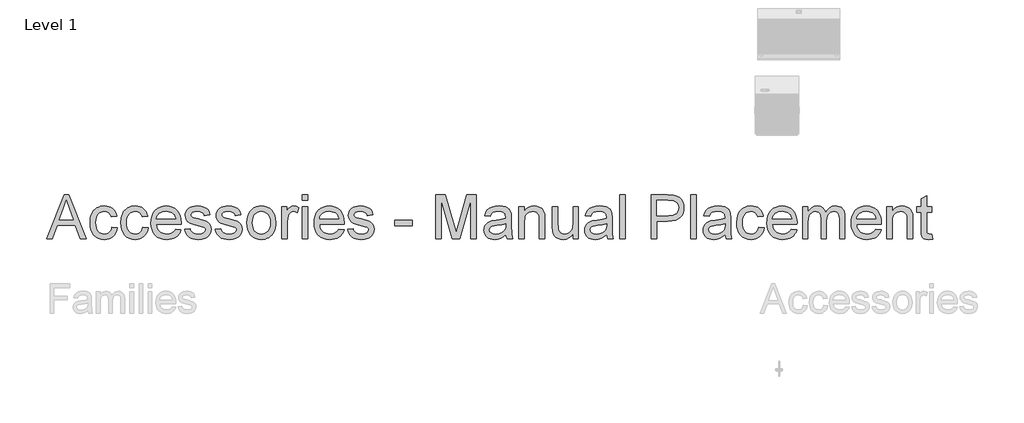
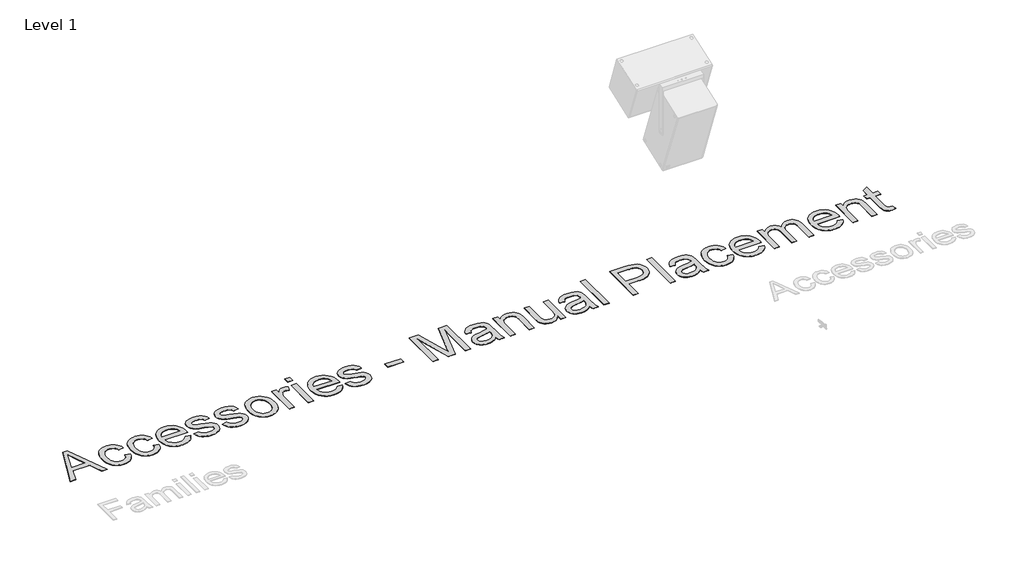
# One storey, part 4 of 12: 1 proxy.
"""IFC4 building model written with IfcOpenShell, lengths in millimetres."""

import ifcopenshell
import ifcopenshell.guid

model = None  # the IFC model being written
_history = None  # IfcOwnerHistory: only IFC2X3 demands one
_inside = {}  # id of a spatial element -> (the spatial element, [elements in it])
_under = {}  # id of a project, library or spatial element -> (it, [spatial elements below it])
_declared = {}  # id of a project -> (the project, [libraries it declares])
_typed = {}  # id of a type object -> (the type object, [elements of that type])
_made_of = {}  # id of a material, layer set ... -> (it, [elements and type objects made of it])


def new_model(schema):
    """Start an empty IFC model of exactly this schema.

    Asked for "IFC4X3", IfcOpenShell would pick the latest addendum, in which some entities
    have other attributes; the version numbers below select the first issue.
    IFC2X3 requires an IfcOwnerHistory on every rooted entity: one is made here for all.
    """
    global model, _history
    if schema == "IFC4X3":
        model = ifcopenshell.file(schema_version=(4, 3, 0, 0))
    else:
        model = ifcopenshell.file(schema=schema)
    _inside.clear()
    _under.clear()
    _declared.clear()
    _typed.clear()
    _made_of.clear()
    _history = None
    if model.schema == "IFC2X3":
        org = make("IfcOrganization", Name="unknown")
        user = make(
            "IfcPersonAndOrganization",
            ThePerson=make("IfcPerson", FamilyName="unknown"),
            TheOrganization=org,
        )
        app = make(
            "IfcApplication",
            ApplicationDeveloper=org,
            Version="unknown",
            ApplicationFullName="unknown",
            ApplicationIdentifier="unknown",
        )
        _history = make(
            "IfcOwnerHistory",
            OwningUser=user,
            OwningApplication=app,
            ChangeAction="ADDED",
            CreationDate=0,
        )
    return model


def make(cls, **values):
    """One entity of the class cls with the attributes given. An attribute that is None is left unset."""
    return model.create_entity(
        cls, **{name: value for name, value in values.items() if value is not None}
    )


def rooted(cls, **values):
    """An entity with a GlobalId (a new one), such as an element, a storey or a relation."""
    return make(cls, GlobalId=ifcopenshell.guid.new(), OwnerHistory=_history, **values)


def si_unit(unit_type, name, prefix=None):
    """IfcSIUnit, for example si_unit("LENGTHUNIT", "METRE", prefix="MILLI")."""
    return make("IfcSIUnit", UnitType=unit_type, Prefix=prefix, Name=name)


def assignment(units):
    """IfcUnitAssignment: the units of a project."""
    return None if units is None else make("IfcUnitAssignment", Units=units)


def point(xyz):
    """IfcCartesianPoint."""
    return None if xyz is None else make("IfcCartesianPoint", Coordinates=xyz)


def direction(xyz):
    """IfcDirection."""
    return None if xyz is None else make("IfcDirection", DirectionRatios=xyz)


def frame(location, z_axis=None, x_axis=None):
    """IfcAxis2Placement3D, a coordinate frame: its origin and axes. An axis left out is left unset."""
    return make(
        "IfcAxis2Placement3D",
        Location=point(location),
        Axis=direction(z_axis),
        RefDirection=direction(x_axis),
    )


def origin():
    """The frame at (0, 0, 0) with its axes left unset."""
    return frame((0.0, 0.0, 0.0))


def origin_with_axes():
    """The frame at (0, 0, 0) with the z axis (0, 0, 1) and the x axis (1, 0, 0) written out."""
    return frame((0.0, 0.0, 0.0), z_axis=(0.0, 0.0, 1.0), x_axis=(1.0, 0.0, 0.0))


def place(relative_to, where):
    """IfcLocalPlacement: puts the frame where relative to a parent placement (None: the world)."""
    return make(
        "IfcLocalPlacement", PlacementRelTo=relative_to, RelativePlacement=where
    )


def context(
    kind, dimensions, precision=None, world=None, true_north=None, identifier=None
):
    """IfcGeometricRepresentationContext, for example the 3D "Model" context."""
    return make(
        "IfcGeometricRepresentationContext",
        ContextIdentifier=identifier,
        ContextType=kind,
        CoordinateSpaceDimension=dimensions,
        Precision=precision,
        WorldCoordinateSystem=world,
        TrueNorth=true_north,
    )


def project(units=None, contexts=None):
    """IfcProject with its units and contexts."""
    return rooted(
        "IfcProject",
        Name="project",
        RepresentationContexts=contexts,
        UnitsInContext=assignment(units),
    )


def spatial(cls, under=None, at=None, **own):
    """A site, building, storey or space (cls), placed at a placement, below another one or the project."""
    s = rooted(cls, ObjectPlacement=at, **own)
    if under is not None:
        _under.setdefault(under.id(), (under, []))[1].append(s)
    return s


def polyline(points):
    """IfcPolyline through the points."""
    return make("IfcPolyline", Points=[point(p) for p in points])


def outline(outer, holes=None, kind="AREA"):
    """IfcArbitraryClosedProfileDef: a profile drawn as a closed curve; with holes, ...WithVoids."""
    if holes is None:
        return make("IfcArbitraryClosedProfileDef", ProfileType=kind, OuterCurve=outer)
    return make(
        "IfcArbitraryProfileDefWithVoids",
        ProfileType=kind,
        OuterCurve=outer,
        InnerCurves=holes,
    )


def extrude(swept, where, along, depth):
    """IfcExtrudedAreaSolid: the profile swept, set in the frame where, extruded along a direction by depth."""
    return make(
        "IfcExtrudedAreaSolid",
        SweptArea=swept,
        Position=where,
        ExtrudedDirection=direction(along),
        Depth=depth,
    )


def shape(context_of_items, identifier, shape_type, items):
    """IfcShapeRepresentation: the items that make up one representation, for example the "Body"."""
    return make(
        "IfcShapeRepresentation",
        ContextOfItems=context_of_items,
        RepresentationIdentifier=identifier,
        RepresentationType=shape_type,
        Items=items,
    )


def made_of(thing, what):
    """Note that an element or type object is made of a material, layer set ...; save() writes the relation."""
    if what is not None:
        _made_of.setdefault(what.id(), (what, []))[1].append(thing)
    return thing


def element(
    cls,
    number,
    at=None,
    inside=None,
    cuts=None,
    type_object=None,
    material=None,
    context=None,
    identifier="Body",
    shape_type=None,
    held_by="IfcProductDefinitionShape",
    body=None,
    shapes=None,
    **own,
):
    """One element of the class cls, such as IfcWall. Its Tag is "e" and its number.

    at: its placement. inside: the storey or other place that contains it. cuts: it is an
    opening in that element (IfcRelVoidsElement). A single representation is given by context,
    identifier, shape_type and body (its items); several are given by shapes. held_by: the class
    of the entity that holds the representations. save() writes the other relations.
    """
    e = rooted(cls, Tag="e%d" % number, ObjectPlacement=at, **own)
    if body is not None:
        shapes = [shape(context, identifier, shape_type, body)]
    if shapes is not None:
        e.Representation = make(held_by, Representations=shapes)
    if inside is not None:
        _inside.setdefault(inside.id(), (inside, []))[1].append(e)
    if cuts is not None:
        rooted(
            "IfcRelVoidsElement", RelatingBuildingElement=cuts, RelatedOpeningElement=e
        )
    if type_object is not None:
        _typed.setdefault(type_object.id(), (type_object, []))[1].append(e)
    return made_of(e, material)


def aggregate(whole, parts):
    """IfcRelAggregates: a whole, such as a stair, and the parts it consists of."""
    return rooted("IfcRelAggregates", RelatingObject=whole, RelatedObjects=parts)


def save(model, path):
    """Write the relations noted so far, then the file.

    IfcRelAggregates (storeys below a building ...), IfcRelContainedInSpatialStructure (elements
    in a storey), IfcRelDefinesByType, IfcRelAssociatesMaterial and IfcRelDeclares: one each for
    every whole, place, type object, material and project.
    """
    for whole, parts in _under.values():
        aggregate(whole, parts)
    for where, things in _inside.values():
        rooted(
            "IfcRelContainedInSpatialStructure",
            RelatedElements=things,
            RelatingStructure=where,
        )
    for kind, things in _typed.values():
        rooted("IfcRelDefinesByType", RelatedObjects=things, RelatingType=kind)
    for what, things in _made_of.values():
        rooted("IfcRelAssociatesMaterial", RelatedObjects=things, RelatingMaterial=what)
    for by, libraries in _declared.values():
        rooted("IfcRelDeclares", RelatingContext=by, RelatedDefinitions=libraries)
    model.write(path)


model = new_model("IFC4")

# Units and contexts
model_context = context("Model", 3, world=origin())
ifc_project = project(units=[si_unit("LENGTHUNIT", "METRE", prefix="MILLI")], contexts=[model_context])

# Site, building, storey
site = spatial("IfcSite", under=ifc_project)
building = spatial("IfcBuilding", under=site)
storey = spatial("IfcBuildingStorey", under=building, Name="Level 1", Elevation=0.0)

# Proxy
placement = place(None, origin())
element("IfcBuildingElementProxy", 1, Name="600mm Arial", ObjectType="600mm Arial", at=placement, inside=storey, context=model_context, shape_type="SweptSolid", body=[
    extrude(outline(polyline([(-21103.7520682, -21148.6945164), (-20867.9347605, -20557.9252857), (-20805.0501451, -20557.9252857), (-20569.2328374, -21148.6945164), (-20647.2616836, -21148.6945164), (-20714.9059143, -20964.0791318), (-20958.223222, -20964.0791318), (-21025.723222, -21148.6945164), (-21103.7520682, -21148.6945164)]), holes=[polyline([(-20931.1078374, -20890.232978), (-20741.8770682, -20890.232978), (-20795.098222, -20744.9925934), (-20836.4924528, -20631.7714395), (-20873.271299, -20732.3002857), (-20931.1078374, -20890.232978)])]), origin_with_axes(), (0.0, 0.0, 1.0), 5.0),
    extrude(outline(polyline([(-20222.646299, -20991.7714395), (-20148.8001451, -21001.0022087), (-20156.8319961, -21035.8474611), (-20169.3890874, -21066.6812953), (-20186.4714192, -21093.5037111), (-20208.0789913, -21116.3147087), (-20233.301347, -21134.5193361), (-20261.2280297, -21147.5226414), (-20291.8590393, -21155.3246246), (-20325.1943759, -21157.9252857), (-20366.6111427, -21154.2969804), (-20403.7460586, -21143.4120645), (-20436.5991235, -21125.2705381), (-20465.1703374, -21099.872401), (-20488.2968398, -21067.6954179), (-20504.8157701, -21029.217353), (-20514.7271283, -20984.4382063), (-20518.0309143, -20933.357978), (-20512.3878855, -20867.6428337), (-20505.3340994, -20838.0710188), (-20495.458799, -20810.6897087), (-20482.6943759, -20786.0487833), (-20466.973222, -20764.6981222), (-20448.2953374, -20746.6377256), (-20426.660722, -20731.8675934), (-20403.0474408, -20720.3832184), (-20378.4335586, -20712.1800934), (-20352.8190754, -20707.2582184), (-20326.2039913, -20705.6175934), (-20293.4410706, -20707.8711991), (-20263.8061547, -20714.6320164), (-20237.2992437, -20725.9000453), (-20213.9203374, -20741.6752857), (-20194.0660706, -20761.5971607), (-20178.1330778, -20785.3050934), (-20166.1213591, -20812.7990837), (-20158.0309143, -20844.0791318), (-20231.8770682, -20853.309901), (-20245.2725009, -20821.092353), (-20266.1318759, -20797.997401), (-20293.301347, -20784.0971607), (-20325.6270682, -20779.4637472), (-20350.7187148, -20781.7443962), (-20373.349424, -20788.5863434), (-20393.5191956, -20799.9895885), (-20411.2280297, -20815.9541318), (-20425.6465994, -20836.8495645), (-20435.9455778, -20863.045478), (-20442.1249648, -20894.5418722), (-20444.1847605, -20931.3387472), (-20442.1700369, -20968.6900092), (-20436.1258663, -21000.5514876), (-20426.0522485, -21026.9231823), (-20411.9491836, -21047.8050934), (-20394.5919119, -21063.6749852), (-20374.755674, -21075.0106222), (-20352.4404696, -21081.8120044), (-20327.646299, -21084.0791318), (-20289.4071163, -21078.4180741), (-20272.8701571, -21071.341752), (-20258.0549528, -21061.434901), (-20245.3761667, -21048.5893482), (-20235.2484624, -21032.6969203), (-20227.6718398, -21013.7576174), (-20222.646299, -20991.7714395)])), origin_with_axes(), (0.0, 0.0, 1.0), 5.0),
    extrude(outline(polyline([(-19807.2616836, -20991.7714395), (-19733.4155297, -21001.0022087), (-19741.4473807, -21035.8474611), (-19754.004472, -21066.6812953), (-19771.0868038, -21093.5037111), (-19792.6943759, -21116.3147087), (-19817.9167317, -21134.5193361), (-19845.8434143, -21147.5226414), (-19876.474424, -21155.3246246), (-19909.8097605, -21157.9252857), (-19951.2265273, -21154.2969804), (-19988.3614432, -21143.4120645), (-20021.2145081, -21125.2705381), (-20049.785722, -21099.872401), (-20072.9122244, -21067.6954179), (-20089.4311547, -21029.217353), (-20099.3425129, -20984.4382063), (-20102.646299, -20933.357978), (-20097.0032701, -20867.6428337), (-20089.9494841, -20838.0710188), (-20080.0741836, -20810.6897087), (-20067.3097605, -20786.0487833), (-20051.5886067, -20764.6981222), (-20032.910722, -20746.6377256), (-20011.2761067, -20731.8675934), (-19987.6628254, -20720.3832184), (-19963.0489432, -20712.1800934), (-19937.43446, -20707.2582184), (-19910.8193759, -20705.6175934), (-19878.0564552, -20707.8711991), (-19848.4215393, -20714.6320164), (-19821.9146283, -20725.9000453), (-19798.535722, -20741.6752857), (-19778.6814552, -20761.5971607), (-19762.7484624, -20785.3050934), (-19750.7367437, -20812.7990837), (-19742.646299, -20844.0791318), (-19816.4924528, -20853.309901), (-19829.8878855, -20821.092353), (-19850.7472605, -20797.997401), (-19877.9167317, -20784.0971607), (-19910.2424528, -20779.4637472), (-19935.3340994, -20781.7443962), (-19957.9648086, -20788.5863434), (-19978.1345802, -20799.9895885), (-19995.8434143, -20815.9541318), (-20010.2619841, -20836.8495645), (-20020.5609624, -20863.045478), (-20026.7403494, -20894.5418722), (-20028.8001451, -20931.3387472), (-20026.7854216, -20968.6900092), (-20020.7412509, -21000.5514876), (-20010.6676331, -21026.9231823), (-19996.5645682, -21047.8050934), (-19979.2072966, -21063.6749852), (-19959.3710586, -21075.0106222), (-19937.0558542, -21081.8120044), (-19912.2616836, -21084.0791318), (-19874.0225009, -21078.4180741), (-19857.4855417, -21071.341752), (-19842.6703374, -21061.434901), (-19829.9915514, -21048.5893482), (-19819.863847, -21032.6969203), (-19812.2872244, -21013.7576174), (-19807.2616836, -20991.7714395)])), origin_with_axes(), (0.0, 0.0, 1.0), 5.0),
    extrude(outline(polyline([(-19365.0501451, -21019.4637472), (-19292.646299, -21028.6945164), (-19303.747561, -21057.6939155), (-19318.7340393, -21083.2498049), (-19337.6057341, -21105.3621847), (-19360.3626451, -21124.0310549), (-19386.7703975, -21138.8597809), (-19416.5946163, -21149.451728), (-19449.8353014, -21155.8068962), (-19486.4924528, -21157.9252857), (-19532.3127653, -21154.2699371), (-19573.1390874, -21143.3038914), (-19608.9714192, -21125.0271486), (-19639.8097605, -21099.4397087), (-19664.6084384, -21067.2537111), (-19682.3217797, -21029.1812953), (-19692.9497845, -20985.2224611), (-19696.4924528, -20935.3772087), (-19692.9137268, -20883.841752), (-19682.177549, -20838.4180741), (-19664.2839192, -20799.1061751), (-19639.2328374, -20765.9060549), (-19608.4756259, -20739.529853), (-19573.4636067, -20720.6897087), (-19534.1967797, -20709.3856222), (-19490.6751451, -20705.6175934), (-19448.5552533, -20709.3766078), (-19410.4648086, -20720.653651), (-19376.403811, -20739.4487232), (-19346.3722605, -20765.7618241), (-19321.8575369, -20798.8898289), (-19304.3470201, -20838.1296126), (-19293.84071, -20883.4811751), (-19290.3386067, -20934.9445164), (-19290.771299, -20954.8483626), (-19622.646299, -20954.8483626), (-19618.3689552, -20984.3165116), (-19609.863847, -21010.1248049), (-19597.1309744, -21032.2732424), (-19580.1703374, -21050.7618241), (-19559.919436, -21065.3381462), (-19537.3157701, -21075.7498049), (-19512.3593398, -21081.9968001), (-19485.0501451, -21084.0791318), (-19445.7472605, -21080.2209587), (-19412.646299, -21068.6464395), (-19385.7472605, -21048.6344203), (-19365.0501451, -21019.4637472)]), holes=[polyline([(-19622.646299, -20881.0022087), (-19364.1847605, -20881.0022087), (-19374.1727413, -20841.9877857), (-19382.7634865, -20826.6452376), (-19393.7520682, -20814.0791318), (-19413.8902893, -20798.934901), (-19436.8049528, -20788.1175934), (-19462.4960586, -20781.6272087), (-19490.9636067, -20779.4637472), (-19516.9296523, -20781.1900092), (-19540.7412509, -20786.3687953), (-19562.3984023, -20795.0001054), (-19581.9011067, -20807.0839395), (-19598.2667917, -20822.0614034), (-19610.5128855, -20839.373603), (-19618.6393879, -20859.0205381), (-19622.646299, -20881.0022087)])]), origin_with_axes(), (0.0, 0.0, 1.0), 5.0),
    extrude(outline(polyline([(-19244.1847605, -21019.4637472), (-19170.3386067, -21010.232978), (-19165.8764672, -21027.0719203), (-19158.691972, -21041.8195164), (-19148.7851211, -21054.4757664), (-19136.1559143, -21065.0406703), (-19120.7682942, -21073.3699972), (-19102.5862028, -21079.3195164), (-19057.8386067, -21084.0791318), (-19013.6318759, -21079.716151), (-18996.4503855, -21074.2624251), (-18982.5501451, -21066.6272087), (-18964.160722, -21047.6608626), (-18958.0309143, -21025.6656703), (-18959.5723807, -21015.6957184), (-18964.1967797, -21006.8435549), (-18982.6943759, -20992.4925934), (-19010.3506259, -20983.1175934), (-19058.7039913, -20971.434901), (-19126.0958182, -20951.9457184), (-19169.9059143, -20935.3050934), (-19198.0489432, -20917.1500453), (-19218.4395682, -20893.1175934), (-19230.8253855, -20864.7401895), (-19234.9539913, -20833.5502857), (-19231.6366836, -20804.9385068), (-19221.6847605, -20778.5262472), (-19205.9996643, -20755.3591799), (-19185.4828374, -20736.482978), (-19165.0922124, -20724.6019684), (-19138.535722, -20714.6320164), (-19107.832597, -20707.8711991), (-19075.0020682, -20705.6175934), (-19026.9371643, -20709.2413914), (-18985.146299, -20720.1127857), (-18951.5405297, -20737.1680741), (-18928.0309143, -20759.3435549), (-18912.4539913, -20788.279853), (-18902.646299, -20825.6175934), (-18976.4924528, -20834.8483626), (-18985.8133663, -20811.6091799), (-19004.2568759, -20794.1031703), (-19032.0032701, -20783.123603), (-19069.2328374, -20779.4637472), (-19111.6366836, -20782.9613434), (-19139.9059143, -20793.4541318), (-19155.8073567, -20808.5983626), (-19161.1078374, -20826.0502857), (-19158.9083182, -20837.4084587), (-19152.3097605, -20847.5406703), (-19141.0237028, -20856.591151), (-19124.7616836, -20863.8387472), (-19061.1559143, -20879.559901), (-18952.7664913, -20914.3195164), (-18924.1366836, -20930.9421126), (-18902.4299528, -20953.6945164), (-18888.7460586, -20982.6488434), (-18884.1847605, -21017.8772087), (-18889.5393278, -21054.295478), (-18905.6030297, -21088.5502857), (-18931.7628855, -21117.9553337), (-18967.4059143, -21139.8243241), (-19010.458799, -21153.4000453), (-19058.848222, -21157.9252857), (-19098.5928134, -21155.7437953), (-19133.3073567, -21149.1993241), (-19162.9918518, -21138.2918722), (-19187.646299, -21123.0214395), (-19207.7845201, -21103.4601414), (-19223.9203374, -21079.6800934), (-19236.0537509, -21051.6812953), (-19244.1847605, -21019.4637472)])), origin_with_axes(), (0.0, 0.0, 1.0), 5.0),
    extrude(outline(polyline([(-18828.8001451, -21019.4637472), (-18754.9539913, -21010.232978), (-18750.4918518, -21027.0719203), (-18743.3073567, -21041.8195164), (-18733.4005057, -21054.4757664), (-18720.771299, -21065.0406703), (-18705.3836788, -21073.3699972), (-18687.2015874, -21079.3195164), (-18642.4539913, -21084.0791318), (-18598.2472605, -21079.716151), (-18581.0657701, -21074.2624251), (-18567.1655297, -21066.6272087), (-18548.7761067, -21047.6608626), (-18542.646299, -21025.6656703), (-18544.1877653, -21015.6957184), (-18548.8121643, -21006.8435549), (-18567.3097605, -20992.4925934), (-18594.9660105, -20983.1175934), (-18643.3193759, -20971.434901), (-18710.7112028, -20951.9457184), (-18754.521299, -20935.3050934), (-18782.6643278, -20917.1500453), (-18803.0549528, -20893.1175934), (-18815.4407701, -20864.7401895), (-18819.5693759, -20833.5502857), (-18816.2520682, -20804.9385068), (-18806.3001451, -20778.5262472), (-18790.615049, -20755.3591799), (-18770.098222, -20736.482978), (-18749.707597, -20724.6019684), (-18723.1511067, -20714.6320164), (-18692.4479817, -20707.8711991), (-18659.6174528, -20705.6175934), (-18611.552549, -20709.2413914), (-18569.7616836, -20720.1127857), (-18536.1559143, -20737.1680741), (-18512.646299, -20759.3435549), (-18497.0693759, -20788.279853), (-18487.2616836, -20825.6175934), (-18561.1078374, -20834.8483626), (-18570.4287509, -20811.6091799), (-18588.8722605, -20794.1031703), (-18616.6186547, -20783.123603), (-18653.848222, -20779.4637472), (-18696.2520682, -20782.9613434), (-18724.521299, -20793.4541318), (-18740.4227413, -20808.5983626), (-18745.723222, -20826.0502857), (-18743.5237028, -20837.4084587), (-18736.9251451, -20847.5406703), (-18725.6390874, -20856.591151), (-18709.3770682, -20863.8387472), (-18645.771299, -20879.559901), (-18537.3818759, -20914.3195164), (-18508.7520682, -20930.9421126), (-18487.0453374, -20953.6945164), (-18473.3614432, -20982.6488434), (-18468.8001451, -21017.8772087), (-18474.1547124, -21054.295478), (-18490.2184143, -21088.5502857), (-18516.3782701, -21117.9553337), (-18552.021299, -21139.8243241), (-18595.0741836, -21153.4000453), (-18643.4636067, -21157.9252857), (-18683.208198, -21155.7437953), (-18717.9227413, -21149.1993241), (-18747.6072365, -21138.2918722), (-18772.2616836, -21123.0214395), (-18792.3999047, -21103.4601414), (-18808.535722, -21079.6800934), (-18820.6691355, -21051.6812953), (-18828.8001451, -21019.4637472)])), origin_with_axes(), (0.0, 0.0, 1.0), 5.0),
    extrude(outline(polyline([(-18404.1847605, -20931.7714395), (-18400.1913711, -20875.5845405), (-18388.2112028, -20827.1680741), (-18368.2442557, -20786.5220405), (-18340.2905297, -20753.6464395), (-18312.1475009, -20732.6338193), (-18281.083799, -20717.6248049), (-18247.099424, -20708.6193962), (-18210.1943759, -20705.6175934), (-18169.4536908, -20709.2729419), (-18132.6162509, -20720.2389876), (-18099.6820562, -20738.5157304), (-18070.6511067, -20764.1031703), (-18046.9566956, -20796.1359227), (-18030.0321163, -20833.748603), (-18019.8773687, -20876.9412111), (-18016.4924528, -20925.7137472), (-18017.988847, -20965.2419924), (-18022.4780297, -21000.3171126), (-18029.9600009, -21030.9391078), (-18040.4347605, -21057.107978), (-18053.7715994, -21079.7116438), (-18069.8398086, -21099.638026), (-18088.6393879, -21116.8871246), (-18110.1703374, -21131.4589395), (-18133.5943158, -21143.0379659), (-18158.0729817, -21151.3086991), (-18183.606335, -21156.271139), (-18210.1943759, -21157.9252857), (-18251.5300129, -21154.2834587), (-18288.7100009, -21143.357978), (-18321.7343398, -21125.1488434), (-18350.6030297, -21099.6560549), (-18374.0450369, -21067.3123049), (-18390.7893278, -21028.5502857), (-18400.8359023, -20983.3699972), (-18404.1847605, -20931.7714395)]), holes=[polyline([(-18330.3386067, -20931.6272087), (-18328.2021884, -20967.4460188), (-18321.7929336, -20998.4601414), (-18311.1108422, -21024.6695765), (-18296.1559143, -21046.0743241), (-18277.9648086, -21062.7014275), (-18257.5741836, -21074.5779299), (-18234.9840393, -21081.7038313), (-18210.1943759, -21084.0791318), (-18185.5309143, -21081.6903097), (-18163.0309143, -21074.5238434), (-18142.6943759, -21062.5797328), (-18124.521299, -21045.857978), (-18109.5663711, -21024.2413914), (-18098.8842797, -20997.6127857), (-18092.4750249, -20965.9721607), (-18090.3386067, -20929.3195164), (-18092.4885466, -20894.6365236), (-18098.9383663, -20864.4336991), (-18109.6880658, -20838.7110429), (-18124.7376451, -20817.4685549), (-18142.9783302, -20800.8414515), (-18163.301347, -20788.9649491), (-18185.7066956, -20781.8390477), (-18210.1943759, -20779.4637472), (-18234.9840393, -20781.8300333), (-18257.5741836, -20788.9288914), (-18277.9648086, -20800.7603217), (-18296.1559143, -20817.3243241), (-18311.1108422, -20838.6659708), (-18321.7929336, -20864.8303337), (-18328.2021884, -20895.8174131), (-18330.3386067, -20931.6272087)])]), origin_with_axes(), (0.0, 0.0, 1.0), 5.0),
    extrude(outline(polyline([(-17933.4155297, -21148.6945164), (-17933.4155297, -20714.8483626), (-17868.8001451, -20714.8483626), (-17868.8001451, -20779.0310549), (-17844.9299528, -20741.8195164), (-17822.9347605, -20719.8964395), (-17800.8674528, -20709.1873049), (-17776.7809143, -20705.6175934), (-17740.0020682, -20711.3147087), (-17702.646299, -20728.4060549), (-17727.3097605, -20794.607978), (-17753.271299, -20783.2498049), (-17779.2328374, -20779.4637472), (-17801.2821163, -20783.1055741), (-17820.9876451, -20794.0310549), (-17836.9071163, -20811.4108626), (-17847.598222, -20834.4156703), (-17856.5765874, -20875.6656703), (-17859.5693759, -20920.6656703), (-17859.5693759, -21148.6945164), (-17933.4155297, -21148.6945164)])), origin_with_axes(), (0.0, 0.0, 1.0), 5.0),
    extrude(outline(polyline([(-17656.4924528, -21148.6945164), (-17656.4924528, -20714.8483626), (-17582.646299, -20714.8483626), (-17582.646299, -21148.6945164), (-17656.4924528, -21148.6945164)])), origin_with_axes(), (0.0, 0.0, 1.0), 5.0),
    extrude(outline(polyline([(-17656.4924528, -20631.7714395), (-17656.4924528, -20557.9252857), (-17582.646299, -20557.9252857), (-17582.646299, -20631.7714395), (-17656.4924528, -20631.7714395)])), origin_with_axes(), (0.0, 0.0, 1.0), 5.0),
    extrude(outline(polyline([(-17168.1270682, -21019.4637472), (-17095.723222, -21028.6945164), (-17106.8244841, -21057.6939155), (-17121.8109624, -21083.2498049), (-17140.6826571, -21105.3621847), (-17163.4395682, -21124.0310549), (-17189.8473206, -21138.8597809), (-17219.6715393, -21149.451728), (-17252.9122244, -21155.8068962), (-17289.5693759, -21157.9252857), (-17335.3896884, -21154.2699371), (-17376.2160105, -21143.3038914), (-17412.0483422, -21125.0271486), (-17442.8866836, -21099.4397087), (-17467.6853615, -21067.2537111), (-17485.3987028, -21029.1812953), (-17496.0267076, -20985.2224611), (-17499.5693759, -20935.3772087), (-17495.9906499, -20883.841752), (-17485.254472, -20838.4180741), (-17467.3608422, -20799.1061751), (-17442.3097605, -20765.9060549), (-17411.552549, -20739.529853), (-17376.5405297, -20720.6897087), (-17337.2737028, -20709.3856222), (-17293.7520682, -20705.6175934), (-17251.6321764, -20709.3766078), (-17213.5417317, -20720.653651), (-17179.4807341, -20739.4487232), (-17149.4491836, -20765.7618241), (-17124.93446, -20798.8898289), (-17107.4239432, -20838.1296126), (-17096.9176331, -20883.4811751), (-17093.4155297, -20934.9445164), (-17093.848222, -20954.8483626), (-17425.723222, -20954.8483626), (-17421.4458783, -20984.3165116), (-17412.9407701, -21010.1248049), (-17400.2078975, -21032.2732424), (-17383.2472605, -21050.7618241), (-17362.9963591, -21065.3381462), (-17340.3926932, -21075.7498049), (-17315.4362629, -21081.9968001), (-17288.1270682, -21084.0791318), (-17248.8241836, -21080.2209587), (-17215.723222, -21068.6464395), (-17188.8241836, -21048.6344203), (-17168.1270682, -21019.4637472)]), holes=[polyline([(-17425.723222, -20881.0022087), (-17167.2616836, -20881.0022087), (-17177.2496643, -20841.9877857), (-17185.8404095, -20826.6452376), (-17196.8289913, -20814.0791318), (-17216.9672124, -20798.934901), (-17239.8818759, -20788.1175934), (-17265.5729817, -20781.6272087), (-17294.0405297, -20779.4637472), (-17320.0065754, -20781.1900092), (-17343.818174, -20786.3687953), (-17365.4753254, -20795.0001054), (-17384.9780297, -20807.0839395), (-17401.3437148, -20822.0614034), (-17413.5898086, -20839.373603), (-17421.716311, -20859.0205381), (-17425.723222, -20881.0022087)])]), origin_with_axes(), (0.0, 0.0, 1.0), 5.0),
    extrude(outline(polyline([(-17047.2616836, -21019.4637472), (-16973.4155297, -21010.232978), (-16968.9533903, -21027.0719203), (-16961.7688951, -21041.8195164), (-16951.8620442, -21054.4757664), (-16939.2328374, -21065.0406703), (-16923.8452172, -21073.3699972), (-16905.6631259, -21079.3195164), (-16860.9155297, -21084.0791318), (-16816.708799, -21079.716151), (-16799.5273086, -21074.2624251), (-16785.6270682, -21066.6272087), (-16767.2376451, -21047.6608626), (-16761.1078374, -21025.6656703), (-16762.6493038, -21015.6957184), (-16767.2737028, -21006.8435549), (-16785.771299, -20992.4925934), (-16813.427549, -20983.1175934), (-16861.7809143, -20971.434901), (-16929.1727413, -20951.9457184), (-16972.9828374, -20935.3050934), (-17001.1258663, -20917.1500453), (-17021.5164913, -20893.1175934), (-17033.9023086, -20864.7401895), (-17038.0309143, -20833.5502857), (-17034.7136067, -20804.9385068), (-17024.7616836, -20778.5262472), (-17009.0765874, -20755.3591799), (-16988.5597605, -20736.482978), (-16968.1691355, -20724.6019684), (-16941.6126451, -20714.6320164), (-16910.9095201, -20707.8711991), (-16878.0789913, -20705.6175934), (-16830.0140874, -20709.2413914), (-16788.223222, -20720.1127857), (-16754.6174528, -20737.1680741), (-16731.1078374, -20759.3435549), (-16715.5309143, -20788.279853), (-16705.723222, -20825.6175934), (-16779.5693759, -20834.8483626), (-16788.8902893, -20811.6091799), (-16807.333799, -20794.1031703), (-16835.0801932, -20783.123603), (-16872.3097605, -20779.4637472), (-16914.7136067, -20782.9613434), (-16942.9828374, -20793.4541318), (-16958.8842797, -20808.5983626), (-16964.1847605, -20826.0502857), (-16961.9852413, -20837.4084587), (-16955.3866836, -20847.5406703), (-16944.1006259, -20856.591151), (-16927.8386067, -20863.8387472), (-16864.2328374, -20879.559901), (-16755.8434143, -20914.3195164), (-16727.2136067, -20930.9421126), (-16705.5068759, -20953.6945164), (-16691.8229817, -20982.6488434), (-16687.2616836, -21017.8772087), (-16692.6162509, -21054.295478), (-16708.6799528, -21088.5502857), (-16734.8398086, -21117.9553337), (-16770.4828374, -21139.8243241), (-16813.535722, -21153.4000453), (-16861.9251451, -21157.9252857), (-16901.6697365, -21155.7437953), (-16936.3842797, -21149.1993241), (-16966.0687749, -21138.2918722), (-16990.723222, -21123.0214395), (-17010.8614432, -21103.4601414), (-17026.9972605, -21079.6800934), (-17039.130674, -21051.6812953), (-17047.2616836, -21019.4637472)])), origin_with_axes(), (0.0, 0.0, 1.0), 5.0),
    extrude(outline(polyline([(-16410.3386067, -20973.309901), (-16410.3386067, -20899.4637472), (-16179.5693759, -20899.4637472), (-16179.5693759, -20973.309901), (-16410.3386067, -20973.309901)])), origin_with_axes(), (0.0, 0.0, 1.0), 5.0),
    extrude(outline(polyline([(-15856.4924528, -21148.6945164), (-15856.4924528, -20557.9252857), (-15729.4251451, -20557.9252857), (-15608.5597605, -20974.3195164), (-15584.1847605, -21061.2906703), (-15557.7905297, -20967.107978), (-15438.9443759, -20557.9252857), (-15311.8770682, -20557.9252857), (-15311.8770682, -21148.6945164), (-15385.723222, -21148.6945164), (-15385.723222, -20631.7714395), (-15534.1366836, -21148.6945164), (-15634.2328374, -21148.6945164), (-15782.646299, -20631.7714395), (-15782.646299, -21148.6945164), (-15856.4924528, -21148.6945164)])), origin_with_axes(), (0.0, 0.0, 1.0), 5.0),
    extrude(outline(polyline([(-14914.9539913, -21093.309901), (-14950.2364432, -21123.5623049), (-14986.5645682, -21143.357978), (-15024.7676932, -21154.2834587), (-15065.6751451, -21157.9252857), (-15098.5552533, -21155.7347809), (-15127.3878855, -21149.1632664), (-15152.1730417, -21138.2107424), (-15172.910722, -21122.8772087), (-15189.2854216, -21104.1362232), (-15200.9816355, -21082.9613434), (-15207.9993639, -21059.3525693), (-15210.3386067, -21033.309901), (-15206.8049528, -21002.6969203), (-15196.2039913, -20974.8964395), (-15179.8518278, -20951.0983626), (-15159.0645682, -20932.4925934), (-15134.6354817, -20918.4300934), (-15107.3578374, -20908.2618241), (-15043.4636067, -20897.1560549), (-14967.958799, -20885.4733626), (-14915.3866836, -20871.7714395), (-14914.9539913, -20855.3291318), (-14920.0381259, -20822.372401), (-14926.3932942, -20810.1668722), (-14935.2905297, -20800.809901), (-14950.6691355, -20791.4709587), (-14969.4011067, -20784.8002857), (-15016.9251451, -20779.4637472), (-15060.9155297, -20783.0154299), (-15091.6366836, -20793.670478), (-15112.5862028, -20813.3760068), (-15127.2616836, -20844.0791318), (-15201.1078374, -20834.8483626), (-15188.2893278, -20794.4637472), (-15169.160722, -20762.732978), (-15141.9371643, -20738.466151), (-15104.833799, -20720.4733626), (-15059.4551932, -20709.3315357), (-15007.4059143, -20705.6175934), (-14957.4840393, -20708.8988434), (-14917.910722, -20718.7425934), (-14888.0729817, -20733.544276), (-14867.3578374, -20751.6993241), (-14853.6198567, -20774.1452376), (-14844.7136067, -20801.8195164), (-14841.1078374, -20866.434901), (-14841.1078374, -20958.309901), (-14837.3578374, -21086.6031703), (-14831.8049528, -21118.3159107), (-14822.646299, -21148.6945164), (-14896.4924528, -21148.6945164), (-14908.3193759, -21123.0214395), (-14914.9539913, -21093.309901)]), holes=[polyline([(-14914.9539913, -20945.6175934), (-14964.5693759, -20957.9132664), (-15034.0886067, -20968.2618241), (-15097.6222605, -20980.232978), (-15114.1547124, -20988.4180741), (-15126.396299, -20999.7041318), (-15133.9684143, -21013.2257664), (-15136.4924528, -21028.1175934), (-15130.9936547, -21050.076728), (-15114.4972605, -21068.0695164), (-15087.363847, -21080.076728), (-15049.9539913, -21084.0791318), (-15010.2905297, -21079.6620645), (-14975.2424528, -21066.4108626), (-14946.8289913, -21046.8856222), (-14927.0693759, -21023.6464395), (-14918.3073567, -20999.7041318), (-14915.3866836, -20966.5310549), (-14914.9539913, -20945.6175934)])]), origin_with_axes(), (0.0, 0.0, 1.0), 5.0),
    extrude(outline(polyline([(-14739.5693759, -21148.6945164), (-14739.5693759, -20714.8483626), (-14665.723222, -20714.8483626), (-14665.723222, -20775.4252857), (-14640.068174, -20744.8844203), (-14609.2568759, -20723.0695164), (-14573.2893278, -20709.9805741), (-14532.1655297, -20705.6175934), (-14495.7652893, -20709.1332184), (-14462.4299528, -20719.6800934), (-14434.629472, -20735.9421126), (-14414.833799, -20756.6031703), (-14401.4023086, -20781.6091799), (-14392.6943759, -20810.9060549), (-14388.8001451, -20882.3002857), (-14388.8001451, -21148.6945164), (-14462.646299, -21148.6945164), (-14462.646299, -20892.2522087), (-14464.7737028, -20854.0671126), (-14471.1559143, -20826.9156703), (-14482.9287509, -20807.4625453), (-14501.2280297, -20792.372401), (-14524.6835586, -20782.6909107), (-14551.9251451, -20779.4637472), (-14574.3485225, -20781.2756462), (-14595.176347, -20786.7113434), (-14614.4086187, -20795.7708385), (-14632.0453374, -20808.4541318), (-14646.7794119, -20826.2035309), (-14657.3037509, -20850.4613434), (-14663.6183542, -20881.2275693), (-14665.723222, -20918.5022087), (-14665.723222, -21148.6945164), (-14739.5693759, -21148.6945164)])), origin_with_axes(), (0.0, 0.0, 1.0), 5.0),
    extrude(outline(polyline([(-14010.3386067, -21148.6945164), (-14010.3386067, -21074.1272087), (-14037.0573567, -21110.7888674), (-14068.1751451, -21136.9757664), (-14103.691972, -21152.6879059), (-14143.6078374, -21157.9252857), (-14179.5753855, -21154.247401), (-14213.0549528, -21143.2137472), (-14241.1438951, -21126.6272087), (-14260.9395682, -21106.2906703), (-14274.2628855, -21081.591151), (-14282.9347605, -21051.9156703), (-14287.2616836, -20983.2618241), (-14287.2616836, -20714.8483626), (-14213.4155297, -20714.8483626), (-14213.4155297, -20948.5022087), (-14212.2977413, -20995.232978), (-14208.9443759, -21023.7906703), (-14198.1811547, -21048.904853), (-14179.7376451, -21067.997401), (-14154.8398086, -21080.0586991), (-14124.7136067, -21084.0791318), (-14092.8566355, -21079.9685549), (-14063.0549528, -21067.6368241), (-14038.4816355, -21048.2197568), (-14022.3097605, -21022.8531703), (-14013.3313951, -20988.1115837), (-14010.3386067, -20940.5695164), (-14010.3386067, -20714.8483626), (-13936.4924528, -20714.8483626), (-13936.4924528, -21148.6945164), (-14010.3386067, -21148.6945164)])), origin_with_axes(), (0.0, 0.0, 1.0), 5.0),
    extrude(outline(polyline([(-13558.0309143, -21093.309901), (-13593.3133663, -21123.5623049), (-13629.6414913, -21143.357978), (-13667.8446163, -21154.2834587), (-13708.7520682, -21157.9252857), (-13741.6321764, -21155.7347809), (-13770.4648086, -21149.1632664), (-13795.2499648, -21138.2107424), (-13815.9876451, -21122.8772087), (-13832.3623446, -21104.1362232), (-13844.0585586, -21082.9613434), (-13851.0762869, -21059.3525693), (-13853.4155297, -21033.309901), (-13849.8818759, -21002.6969203), (-13839.2809143, -20974.8964395), (-13822.9287509, -20951.0983626), (-13802.1414913, -20932.4925934), (-13777.7124047, -20918.4300934), (-13750.4347605, -20908.2618241), (-13686.5405297, -20897.1560549), (-13611.035722, -20885.4733626), (-13558.4636067, -20871.7714395), (-13558.0309143, -20855.3291318), (-13563.115049, -20822.372401), (-13569.4702172, -20810.1668722), (-13578.3674528, -20800.809901), (-13593.7460586, -20791.4709587), (-13612.4780297, -20784.8002857), (-13660.0020682, -20779.4637472), (-13703.9924528, -20783.0154299), (-13734.7136067, -20793.670478), (-13755.6631259, -20813.3760068), (-13770.3386067, -20844.0791318), (-13844.1847605, -20834.8483626), (-13831.3662509, -20794.4637472), (-13812.2376451, -20762.732978), (-13785.0140874, -20738.466151), (-13747.910722, -20720.4733626), (-13702.5321163, -20709.3315357), (-13650.4828374, -20705.6175934), (-13600.5609624, -20708.8988434), (-13560.9876451, -20718.7425934), (-13531.1499047, -20733.544276), (-13510.4347605, -20751.6993241), (-13496.6967797, -20774.1452376), (-13487.7905297, -20801.8195164), (-13484.1847605, -20866.434901), (-13484.1847605, -20958.309901), (-13480.4347605, -21086.6031703), (-13474.8818759, -21118.3159107), (-13465.723222, -21148.6945164), (-13539.5693759, -21148.6945164), (-13551.396299, -21123.0214395), (-13558.0309143, -21093.309901)]), holes=[polyline([(-13558.0309143, -20945.6175934), (-13607.646299, -20957.9132664), (-13677.1655297, -20968.2618241), (-13740.6991836, -20980.232978), (-13757.2316355, -20988.4180741), (-13769.473222, -20999.7041318), (-13777.0453374, -21013.2257664), (-13779.5693759, -21028.1175934), (-13774.0705778, -21050.076728), (-13757.5741836, -21068.0695164), (-13730.4407701, -21080.076728), (-13693.0309143, -21084.0791318), (-13653.3674528, -21079.6620645), (-13618.3193759, -21066.4108626), (-13589.9059143, -21046.8856222), (-13570.146299, -21023.6464395), (-13561.3842797, -20999.7041318), (-13558.4636067, -20966.5310549), (-13558.0309143, -20945.6175934)])]), origin_with_axes(), (0.0, 0.0, 1.0), 5.0),
    extrude(outline(polyline([(-13382.646299, -21148.6945164), (-13382.646299, -20557.9252857), (-13308.8001451, -20557.9252857), (-13308.8001451, -21148.6945164), (-13382.646299, -21148.6945164)])), origin_with_axes(), (0.0, 0.0, 1.0), 5.0),
    extrude(outline(polyline([(-12958.0309143, -21148.6945164), (-12958.0309143, -20557.9252857), (-12739.0886067, -20557.9252857), (-12688.1030297, -20559.3315357), (-12650.8193759, -20563.5502857), (-12611.4624047, -20574.061103), (-12579.0645682, -20591.170478), (-12552.9768278, -20615.653651), (-12532.5501451, -20648.2858626), (-12519.3530297, -20686.7774491), (-12514.9539913, -20728.8387472), (-12517.9242437, -20765.1037712), (-12526.8350009, -20798.466151), (-12541.6862629, -20828.9258866), (-12562.4780297, -20856.482978), (-12591.0222004, -20879.325526), (-12629.130674, -20895.6416318), (-12676.8034504, -20905.4312953), (-12734.0405297, -20908.6945164), (-12884.1847605, -20908.6945164), (-12884.1847605, -21148.6945164), (-12958.0309143, -21148.6945164)]), holes=[polyline([(-12884.1847605, -20834.8483626), (-12729.7136067, -20834.8483626), (-12694.1967797, -20833.153651), (-12664.2328374, -20828.0695164), (-12639.8217797, -20819.5959587), (-12620.9636067, -20807.732978), (-12606.8920922, -20792.7960789), (-12596.8410105, -20775.1007664), (-12590.8103615, -20754.6470405), (-12588.8001451, -20731.434901), (-12593.5417317, -20698.2618241), (-12607.7664913, -20670.2810549), (-12629.707597, -20649.2233626), (-12657.598222, -20636.8195164), (-12686.083799, -20633.0334587), (-12731.4443759, -20631.7714395), (-12884.1847605, -20631.7714395), (-12884.1847605, -20834.8483626)])]), origin_with_axes(), (0.0, 0.0, 1.0), 5.0),
    extrude(outline(polyline([(-12422.646299, -21148.6945164), (-12422.646299, -20557.9252857), (-12348.8001451, -20557.9252857), (-12348.8001451, -21148.6945164), (-12422.646299, -21148.6945164)])), origin_with_axes(), (0.0, 0.0, 1.0), 5.0),
    extrude(outline(polyline([(-11961.1078374, -21093.309901), (-11996.3902893, -21123.5623049), (-12032.7184143, -21143.357978), (-12070.9215393, -21154.2834587), (-12111.8289913, -21157.9252857), (-12144.7090994, -21155.7347809), (-12173.5417317, -21149.1632664), (-12198.3268879, -21138.2107424), (-12219.0645682, -21122.8772087), (-12235.4392677, -21104.1362232), (-12247.1354817, -21082.9613434), (-12254.15321, -21059.3525693), (-12256.4924528, -21033.309901), (-12252.958799, -21002.6969203), (-12242.3578374, -20974.8964395), (-12226.005674, -20951.0983626), (-12205.2184143, -20932.4925934), (-12180.7893278, -20918.4300934), (-12153.5116836, -20908.2618241), (-12089.6174528, -20897.1560549), (-12014.1126451, -20885.4733626), (-11961.5405297, -20871.7714395), (-11961.1078374, -20855.3291318), (-11966.191972, -20822.372401), (-11972.5471403, -20810.1668722), (-11981.4443759, -20800.809901), (-11996.8229817, -20791.4709587), (-12015.5549528, -20784.8002857), (-12063.0789913, -20779.4637472), (-12107.0693759, -20783.0154299), (-12137.7905297, -20793.670478), (-12158.740049, -20813.3760068), (-12173.4155297, -20844.0791318), (-12247.2616836, -20834.8483626), (-12234.443174, -20794.4637472), (-12215.3145682, -20762.732978), (-12188.0910105, -20738.466151), (-12150.9876451, -20720.4733626), (-12105.6090393, -20709.3315357), (-12053.5597605, -20705.6175934), (-12003.6378855, -20708.8988434), (-11964.0645682, -20718.7425934), (-11934.2268278, -20733.544276), (-11913.5116836, -20751.6993241), (-11899.7737028, -20774.1452376), (-11890.8674528, -20801.8195164), (-11887.2616836, -20866.434901), (-11887.2616836, -20958.309901), (-11883.5116836, -21086.6031703), (-11877.958799, -21118.3159107), (-11868.8001451, -21148.6945164), (-11942.646299, -21148.6945164), (-11954.473222, -21123.0214395), (-11961.1078374, -21093.309901)]), holes=[polyline([(-11961.1078374, -20945.6175934), (-12010.723222, -20957.9132664), (-12080.2424528, -20968.2618241), (-12143.7761067, -20980.232978), (-12160.3085586, -20988.4180741), (-12172.5501451, -20999.7041318), (-12180.1222605, -21013.2257664), (-12182.646299, -21028.1175934), (-12177.1475009, -21050.076728), (-12160.6511067, -21068.0695164), (-12133.5176932, -21080.076728), (-12096.1078374, -21084.0791318), (-12056.4443759, -21079.6620645), (-12021.396299, -21066.4108626), (-11992.9828374, -21046.8856222), (-11973.223222, -21023.6464395), (-11964.4612028, -20999.7041318), (-11961.5405297, -20966.5310549), (-11961.1078374, -20945.6175934)])]), origin_with_axes(), (0.0, 0.0, 1.0), 5.0),
    extrude(outline(polyline([(-11508.8001451, -20991.7714395), (-11434.9539913, -21001.0022087), (-11442.9858422, -21035.8474611), (-11455.5429336, -21066.6812953), (-11472.6252653, -21093.5037111), (-11494.2328374, -21116.3147087), (-11519.4551932, -21134.5193361), (-11547.3818759, -21147.5226414), (-11578.0128855, -21155.3246246), (-11611.348222, -21157.9252857), (-11652.7649889, -21154.2969804), (-11689.8999047, -21143.4120645), (-11722.7529696, -21125.2705381), (-11751.3241836, -21099.872401), (-11774.450686, -21067.6954179), (-11790.9696163, -21029.217353), (-11800.8809744, -20984.4382063), (-11804.1847605, -20933.357978), (-11798.5417317, -20867.6428337), (-11791.4879456, -20838.0710188), (-11781.6126451, -20810.6897087), (-11768.848222, -20786.0487833), (-11753.1270682, -20764.6981222), (-11734.4491836, -20746.6377256), (-11712.8145682, -20731.8675934), (-11689.2012869, -20720.3832184), (-11664.5874047, -20712.1800934), (-11638.9729216, -20707.2582184), (-11612.3578374, -20705.6175934), (-11579.5949167, -20707.8711991), (-11549.9600009, -20714.6320164), (-11523.4530898, -20725.9000453), (-11500.0741836, -20741.6752857), (-11480.2199167, -20761.5971607), (-11464.286924, -20785.3050934), (-11452.2752052, -20812.7990837), (-11444.1847605, -20844.0791318), (-11518.0309143, -20853.309901), (-11531.426347, -20821.092353), (-11552.285722, -20797.997401), (-11579.4551932, -20784.0971607), (-11611.7809143, -20779.4637472), (-11636.872561, -20781.7443962), (-11659.5032701, -20788.5863434), (-11679.6730417, -20799.9895885), (-11697.3818759, -20815.9541318), (-11711.8004456, -20836.8495645), (-11722.099424, -20863.045478), (-11728.278811, -20894.5418722), (-11730.3386067, -20931.3387472), (-11728.3238831, -20968.6900092), (-11722.2797124, -21000.5514876), (-11712.2060946, -21026.9231823), (-11698.1030297, -21047.8050934), (-11680.7457581, -21063.6749852), (-11660.9095201, -21075.0106222), (-11638.5943158, -21081.8120044), (-11613.8001451, -21084.0791318), (-11575.5609624, -21078.4180741), (-11559.0240033, -21071.341752), (-11544.208799, -21061.434901), (-11531.5300129, -21048.5893482), (-11521.4023086, -21032.6969203), (-11513.825686, -21013.7576174), (-11508.8001451, -20991.7714395)])), origin_with_axes(), (0.0, 0.0, 1.0), 5.0),
    extrude(outline(polyline([(-11066.5886067, -21019.4637472), (-10994.1847605, -21028.6945164), (-11005.2860225, -21057.6939155), (-11020.2725009, -21083.2498049), (-11039.1441956, -21105.3621847), (-11061.9011067, -21124.0310549), (-11088.3088591, -21138.8597809), (-11118.1330778, -21149.451728), (-11151.3737629, -21155.8068962), (-11188.0309143, -21157.9252857), (-11233.8512268, -21154.2699371), (-11274.677549, -21143.3038914), (-11310.5098807, -21125.0271486), (-11341.348222, -21099.4397087), (-11366.1468999, -21067.2537111), (-11383.8602413, -21029.1812953), (-11394.4882461, -20985.2224611), (-11398.0309143, -20935.3772087), (-11394.4521884, -20883.841752), (-11383.7160105, -20838.4180741), (-11365.8223807, -20799.1061751), (-11340.771299, -20765.9060549), (-11310.0140874, -20739.529853), (-11275.0020682, -20720.6897087), (-11235.7352413, -20709.3856222), (-11192.2136067, -20705.6175934), (-11150.0937148, -20709.3766078), (-11112.0032701, -20720.653651), (-11077.9422725, -20739.4487232), (-11047.910722, -20765.7618241), (-11023.3959985, -20798.8898289), (-11005.8854817, -20838.1296126), (-10995.3791716, -20883.4811751), (-10991.8770682, -20934.9445164), (-10992.3097605, -20954.8483626), (-11324.1847605, -20954.8483626), (-11319.9074167, -20984.3165116), (-11311.4023086, -21010.1248049), (-11298.669436, -21032.2732424), (-11281.708799, -21050.7618241), (-11261.4578975, -21065.3381462), (-11238.8542317, -21075.7498049), (-11213.8978014, -21081.9968001), (-11186.5886067, -21084.0791318), (-11147.285722, -21080.2209587), (-11114.1847605, -21068.6464395), (-11087.285722, -21048.6344203), (-11066.5886067, -21019.4637472)]), holes=[polyline([(-11324.1847605, -20881.0022087), (-11065.723222, -20881.0022087), (-11075.7112028, -20841.9877857), (-11084.301948, -20826.6452376), (-11095.2905297, -20814.0791318), (-11115.4287509, -20798.934901), (-11138.3434143, -20788.1175934), (-11164.0345201, -20781.6272087), (-11192.5020682, -20779.4637472), (-11218.4681139, -20781.1900092), (-11242.2797124, -20786.3687953), (-11263.9368639, -20795.0001054), (-11283.4395682, -20807.0839395), (-11299.8052533, -20822.0614034), (-11312.051347, -20839.373603), (-11320.1778494, -20859.0205381), (-11324.1847605, -20881.0022087)])]), origin_with_axes(), (0.0, 0.0, 1.0), 5.0),
    extrude(outline(polyline([(-10918.0309143, -21148.6945164), (-10918.0309143, -20714.8483626), (-10844.1847605, -20714.8483626), (-10844.1847605, -20786.2425934), (-10821.973222, -20753.4481222), (-10793.4155297, -20727.7570164), (-10759.4852413, -20711.1524491), (-10721.1559143, -20705.6175934), (-10680.0862028, -20711.2606222), (-10662.6072365, -20718.3144083), (-10647.1655297, -20728.1897087), (-10622.5741836, -20755.2870645), (-10606.4924528, -20791.434901), (-10579.5753855, -20753.8898289), (-10548.8722605, -20727.0719203), (-10514.3830778, -20710.9811751), (-10476.1078374, -20705.6175934), (-10446.5450369, -20707.8486631), (-10420.5970201, -20714.5418722), (-10398.2637869, -20725.6972208), (-10379.5453374, -20741.3147087), (-10364.7481619, -20761.5746246), (-10354.1787509, -20786.6572568), (-10347.8371042, -20816.5626054), (-10345.723222, -20851.2906703), (-10345.723222, -21148.6945164), (-10419.5693759, -21148.6945164), (-10419.5693759, -20883.0214395), (-10421.2821163, -20846.1885068), (-10426.4203374, -20821.3627857), (-10436.0477413, -20804.3615837), (-10451.2280297, -20791.0022087), (-10470.7532701, -20782.3483626), (-10493.4155297, -20779.4637472), (-10514.3425129, -20781.3117039), (-10533.4215393, -20786.8555741), (-10550.6526091, -20796.0953578), (-10566.035722, -20809.0310549), (-10578.6874648, -20826.0412712), (-10587.724424, -20847.5046126), (-10593.1465994, -20873.4210789), (-10594.9539913, -20903.7906703), (-10594.9539913, -21148.6945164), (-10668.8001451, -21148.6945164), (-10668.8001451, -20874.8002857), (-10673.0729817, -20833.045478), (-10685.8914913, -20803.2618241), (-10695.8028494, -20792.8501655), (-10708.4455778, -20785.4132664), (-10723.8196764, -20780.951127), (-10741.9251451, -20779.4637472), (-10770.3746643, -20783.4300934), (-10796.5886067, -20795.3291318), (-10818.223222, -20814.872401), (-10832.9347605, -20841.7714395), (-10841.3722605, -20879.091151), (-10844.1847605, -20929.8964395), (-10844.1847605, -21148.6945164), (-10918.0309143, -21148.6945164)])), origin_with_axes(), (0.0, 0.0, 1.0), 5.0),
    extrude(outline(polyline([(-9931.2039913, -21019.4637472), (-9858.8001451, -21028.6945164), (-9869.9014071, -21057.6939155), (-9884.8878855, -21083.2498049), (-9903.7595802, -21105.3621847), (-9926.5164913, -21124.0310549), (-9952.9242437, -21138.8597809), (-9982.7484624, -21149.451728), (-10015.9891475, -21155.8068962), (-10052.646299, -21157.9252857), (-10098.4666115, -21154.2699371), (-10139.2929336, -21143.3038914), (-10175.1252653, -21125.0271486), (-10205.9636067, -21099.4397087), (-10230.7622845, -21067.2537111), (-10248.4756259, -21029.1812953), (-10259.1036307, -20985.2224611), (-10262.646299, -20935.3772087), (-10259.067573, -20883.841752), (-10248.3313951, -20838.4180741), (-10230.4377653, -20799.1061751), (-10205.3866836, -20765.9060549), (-10174.629472, -20739.529853), (-10139.6174528, -20720.6897087), (-10100.3506259, -20709.3856222), (-10056.8289913, -20705.6175934), (-10014.7090994, -20709.3766078), (-9976.6186547, -20720.653651), (-9942.5576571, -20739.4487232), (-9912.5261067, -20765.7618241), (-9888.0113831, -20798.8898289), (-9870.5008663, -20838.1296126), (-9859.9945562, -20883.4811751), (-9856.4924528, -20934.9445164), (-9856.9251451, -20954.8483626), (-10188.8001451, -20954.8483626), (-10184.5228014, -20984.3165116), (-10176.0176932, -21010.1248049), (-10163.2848206, -21032.2732424), (-10146.3241836, -21050.7618241), (-10126.0732821, -21065.3381462), (-10103.4696163, -21075.7498049), (-10078.513186, -21081.9968001), (-10051.2039913, -21084.0791318), (-10011.9011067, -21080.2209587), (-9978.8001451, -21068.6464395), (-9951.9011067, -21048.6344203), (-9931.2039913, -21019.4637472)]), holes=[polyline([(-10188.8001451, -20881.0022087), (-9930.3386067, -20881.0022087), (-9940.3265874, -20841.9877857), (-9948.9173326, -20826.6452376), (-9959.9059143, -20814.0791318), (-9980.0441355, -20798.934901), (-10002.958799, -20788.1175934), (-10028.6499047, -20781.6272087), (-10057.1174528, -20779.4637472), (-10083.0834985, -20781.1900092), (-10106.895097, -20786.3687953), (-10128.5522485, -20795.0001054), (-10148.0549528, -20807.0839395), (-10164.4206379, -20822.0614034), (-10176.6667317, -20839.373603), (-10184.7932341, -20859.0205381), (-10188.8001451, -20881.0022087)])]), origin_with_axes(), (0.0, 0.0, 1.0), 5.0),
    extrude(outline(polyline([(-9782.646299, -21148.6945164), (-9782.646299, -20714.8483626), (-9708.8001451, -20714.8483626), (-9708.8001451, -20775.4252857), (-9683.145097, -20744.8844203), (-9652.333799, -20723.0695164), (-9616.3662509, -20709.9805741), (-9575.2424528, -20705.6175934), (-9538.8422124, -20709.1332184), (-9505.5068759, -20719.6800934), (-9477.7063951, -20735.9421126), (-9457.910722, -20756.6031703), (-9444.4792317, -20781.6091799), (-9435.771299, -20810.9060549), (-9431.8770682, -20882.3002857), (-9431.8770682, -21148.6945164), (-9505.723222, -21148.6945164), (-9505.723222, -20892.2522087), (-9507.8506259, -20854.0671126), (-9514.2328374, -20826.9156703), (-9526.005674, -20807.4625453), (-9544.3049528, -20792.372401), (-9567.7604817, -20782.6909107), (-9595.0020682, -20779.4637472), (-9617.4254456, -20781.2756462), (-9638.2532701, -20786.7113434), (-9657.4855417, -20795.7708385), (-9675.1222605, -20808.4541318), (-9689.856335, -20826.2035309), (-9700.380674, -20850.4613434), (-9706.6952773, -20881.2275693), (-9708.8001451, -20918.5022087), (-9708.8001451, -21148.6945164), (-9782.646299, -21148.6945164)])), origin_with_axes(), (0.0, 0.0, 1.0), 5.0),
    extrude(outline(polyline([(-9173.4155297, -21087.107978), (-9164.1847605, -21150.857978), (-9219.4251451, -21157.9252857), (-9254.8698567, -21154.8603818), (-9281.3001451, -21145.6656703), (-9299.9780297, -21131.4949972), (-9312.1655297, -21113.5022087), (-9318.8722605, -21082.6007664), (-9321.1078374, -21029.7041318), (-9321.1078374, -20788.6945164), (-9376.4924528, -20788.6945164), (-9376.4924528, -20714.8483626), (-9321.1078374, -20714.8483626), (-9321.1078374, -20609.4156703), (-9247.2616836, -20566.0022087), (-9247.2616836, -20714.8483626), (-9173.4155297, -20714.8483626), (-9173.4155297, -20788.6945164), (-9247.2616836, -20788.6945164), (-9247.2616836, -21027.5406703), (-9243.3674528, -21065.6175934), (-9230.7472605, -21079.1031703), (-9220.0922124, -21082.8351414), (-9205.5789913, -21084.0791318), (-9173.4155297, -21087.107978)])), origin_with_axes(), (0.0, 0.0, 1.0), 5.0),
])

save(model, "model.ifc")
